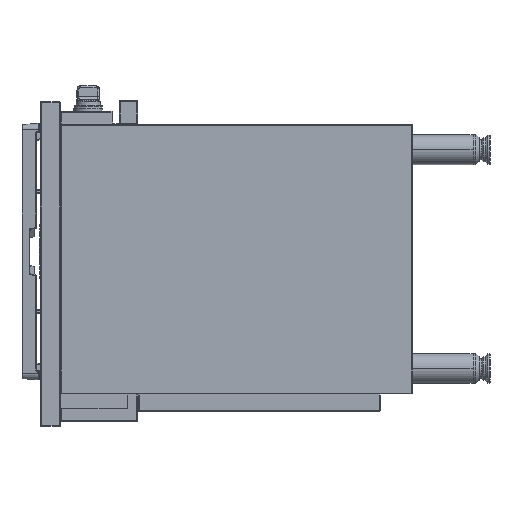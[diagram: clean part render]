
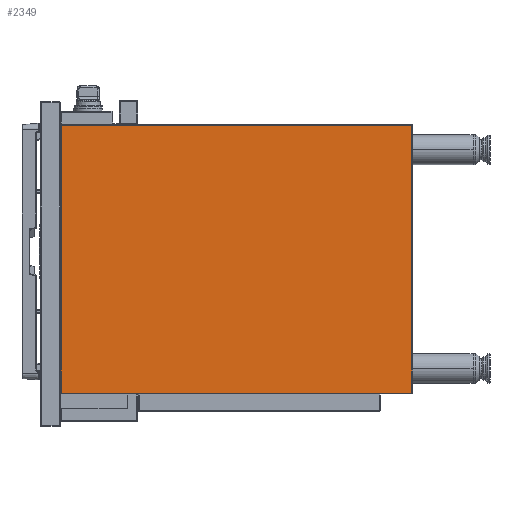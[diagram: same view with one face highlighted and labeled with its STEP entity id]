
A CAD part, left-side view. The second image highlights one B-rep face of the part: STEP entity #2349.
In plain terms, the highlighted planar face has unit normal (-1, 0, 0).
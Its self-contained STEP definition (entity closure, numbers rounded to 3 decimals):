
#374=DIRECTION('',(0.,0.,-1.));
#375=VECTOR('',#374,536.4);
#376=CARTESIAN_POINT('',(-199.,350.7,268.2));
#377=LINE('',#376,#375);
#378=DIRECTION('',(0.,1.,0.));
#379=VECTOR('',#378,701.4);
#380=CARTESIAN_POINT('',(-199.,-350.7,268.2));
#381=LINE('',#380,#379);
#382=DIRECTION('',(0.,0.,1.));
#383=VECTOR('',#382,536.4);
#384=CARTESIAN_POINT('',(-199.,-350.7,-268.2));
#385=LINE('',#384,#383);
#386=DIRECTION('',(0.,-1.,0.));
#387=VECTOR('',#386,701.4);
#388=CARTESIAN_POINT('',(-199.,350.7,-268.2));
#389=LINE('',#388,#387);
#1468=CARTESIAN_POINT('',(-199.,350.7,268.2));
#1469=CARTESIAN_POINT('',(-199.,350.7,-268.2));
#1470=VERTEX_POINT('',#1468);
#1471=VERTEX_POINT('',#1469);
#1472=CARTESIAN_POINT('',(-199.,-350.7,268.2));
#1473=VERTEX_POINT('',#1472);
#1492=CARTESIAN_POINT('',(-199.,-350.7,-268.2));
#1493=VERTEX_POINT('',#1492);
#2335=CARTESIAN_POINT('',(-199.,0.,0.));
#2336=DIRECTION('',(1.,0.,0.));
#2337=DIRECTION('',(0.,0.,-1.));
#2338=AXIS2_PLACEMENT_3D('',#2335,#2336,#2337);
#2339=PLANE('',#2338);
#2341=ORIENTED_EDGE('',*,*,#2340,.F.);
#2342=ORIENTED_EDGE('',*,*,#2325,.F.);
#2344=ORIENTED_EDGE('',*,*,#2343,.F.);
#2346=ORIENTED_EDGE('',*,*,#2345,.F.);
#2347=EDGE_LOOP('',(#2341,#2342,#2344,#2346));
#2348=FACE_OUTER_BOUND('',#2347,.F.);
#2325=EDGE_CURVE('',#1473,#1470,#381,.T.);
#2340=EDGE_CURVE('',#1470,#1471,#377,.T.);
#2343=EDGE_CURVE('',#1493,#1473,#385,.T.);
#2345=EDGE_CURVE('',#1471,#1493,#389,.T.);
#2349=ADVANCED_FACE('',(#2348),#2339,.F.);
